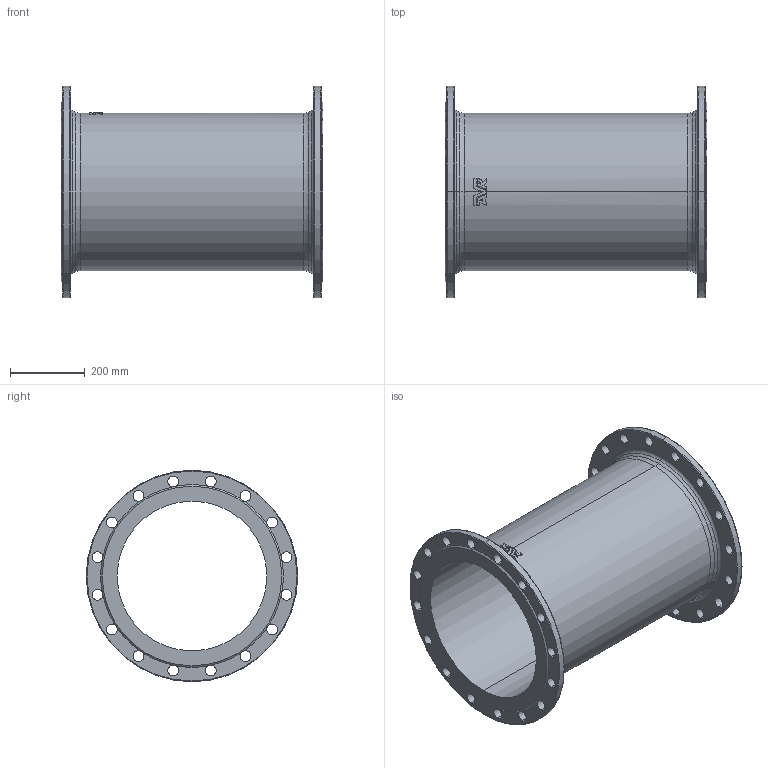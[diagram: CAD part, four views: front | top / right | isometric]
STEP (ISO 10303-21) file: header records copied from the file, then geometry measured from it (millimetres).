
FILE_DESCRIPTION (( 'STEP AP203' ), '1' );
FILE_NAME ('O_712_5010_DN400_0X_REV01.step', '2021-12-03T10:05:32', ( '' ), ( '' ), 'SwSTEP 2.0', 'SolidWorks 2019', '' );
FILE_SCHEMA (( 'CONFIG_CONTROL_DESIGN' ));
Length unit declared in the file: millimetre
Products named in the file (1): O_712_5010_DN400_0X_REV01
Bounding box: 700 x 565 x 565 mm (x, y, z)
Volume: 13829033.7 mm3; surface area: 2280105.4 mm2
Topology: 1 solids, 1 shells, 144 faces, 479 edges, 312 vertices
Faces by surface type: cylinder 77, plane 26, bspline 17, torus 16, cone 8
Entity records: 6686 total; most frequent: CARTESIAN_POINT 2247, ORIENTED_EDGE 958, DIRECTION 939, EDGE_CURVE 479, AXIS2_PLACEMENT_3D 406, VERTEX_POINT 312, CIRCLE 278, EDGE_LOOP 185
